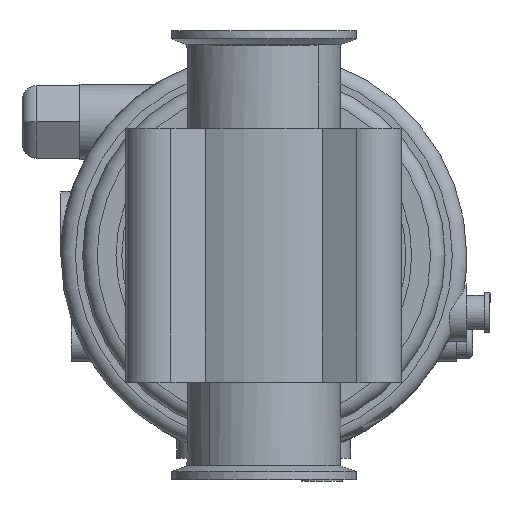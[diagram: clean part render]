
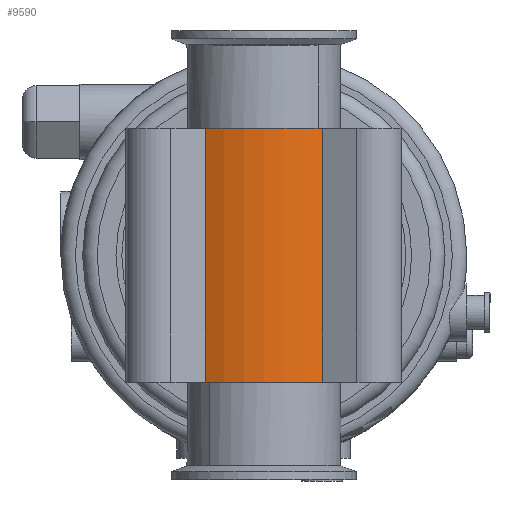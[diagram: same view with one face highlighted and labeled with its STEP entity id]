
A CAD part, front view. The second image highlights one B-rep face of the part: STEP entity #9590.
In plain terms, the highlighted cylindrical face has radius 45.4 mm (diameter 90.8 mm), a partial arc.
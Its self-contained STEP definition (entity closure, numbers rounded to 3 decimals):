
#2990=CARTESIAN_POINT('',(12.,-43.017,-14.515));
#3000=VERTEX_POINT('',#2990);
#3030=CARTESIAN_POINT('',(12.,-43.017,-14.515));
#3040=DIRECTION('',(-1.,0.,0.));
#3050=VECTOR('',#3040,1.);
#3060=LINE('',#3030,#3050);
#3070=CARTESIAN_POINT('',(-75.5,-43.017,-14.515));
#3080=VERTEX_POINT('',#3070);
#3090=EDGE_CURVE('',#3000,#3080,#3060,.T.);
#5210=CARTESIAN_POINT('',(-75.5,0.,0.));
#5220=DIRECTION('',(-1.,0.,0.));
#5230=DIRECTION('',(0.,0.,1.));
#5240=AXIS2_PLACEMENT_3D('',#5210,#5220,#5230);
#5250=CIRCLE('',#5240,45.4);
#5260=CARTESIAN_POINT('',(-75.5,-14.515,-43.017));
#5270=VERTEX_POINT('',#5260);
#5280=EDGE_CURVE('',#5270,#3080,#5250,.T.);
#7230=CARTESIAN_POINT('',(12.,-14.515,-43.017));
#7240=VERTEX_POINT('',#7230);
#7270=CARTESIAN_POINT('',(12.,0.,0.));
#7280=DIRECTION('',(-1.,0.,0.));
#7290=DIRECTION('',(0.,0.,1.));
#7300=AXIS2_PLACEMENT_3D('',#7270,#7280,#7290);
#7310=CIRCLE('',#7300,45.4);
#7320=EDGE_CURVE('',#7240,#3000,#7310,.T.);
#9220=CARTESIAN_POINT('',(12.,-14.515,-43.017));
#9230=DIRECTION('',(-1.,0.,0.));
#9240=VECTOR('',#9230,1.);
#9250=LINE('',#9220,#9240);
#9260=EDGE_CURVE('',#7240,#5270,#9250,.T.);
#9480=CARTESIAN_POINT('',(110.,0.,0.));
#9490=DIRECTION('',(-1.,0.,0.));
#9500=DIRECTION('',(0.,0.,1.));
#9510=AXIS2_PLACEMENT_3D('',#9480,#9490,#9500);
#9520=CYLINDRICAL_SURFACE('',#9510,45.4);
#9530=ORIENTED_EDGE('',*,*,#5280,.F.);
#9540=ORIENTED_EDGE('',*,*,#3090,.T.);
#9550=ORIENTED_EDGE('',*,*,#7320,.T.);
#9560=ORIENTED_EDGE('',*,*,#9260,.F.);
#9570=EDGE_LOOP('',(#9560,#9550,#9540,#9530));
#9580=FACE_OUTER_BOUND('',#9570,.T.);
#9590=ADVANCED_FACE('',(#9580),#9520,.T.);
